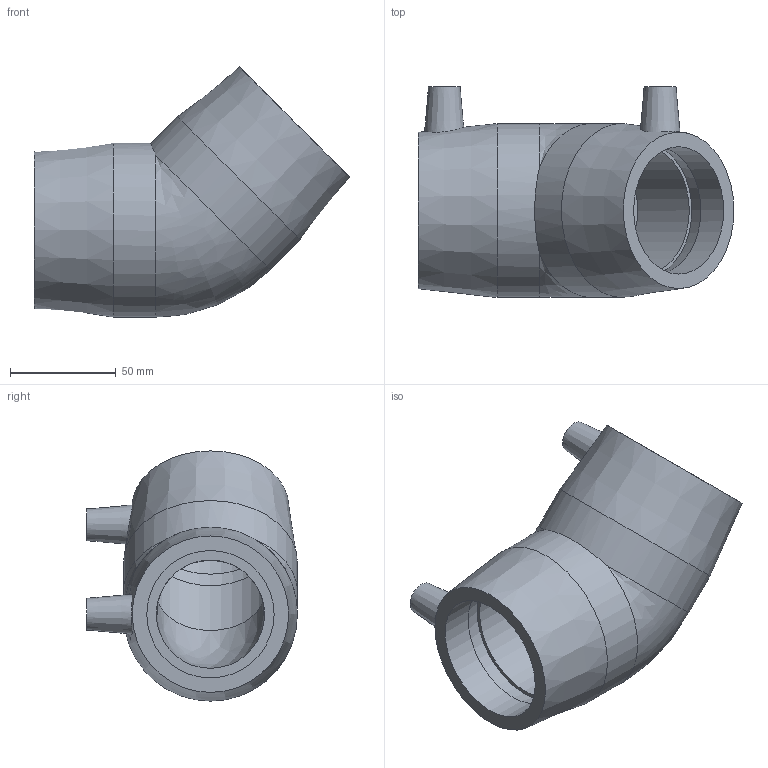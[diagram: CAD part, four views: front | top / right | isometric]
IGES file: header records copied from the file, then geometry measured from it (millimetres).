
Global section: file name: 5906B003020.ipt; native system: Autodesk Inventor 2019; preprocessor: unknown; author: KIM; date: 20210830.101008; units: inch
Bounding box: 149.1 x 99.44 x 118.07 mm (x, y, z)
Volume: 338922.1 mm3; surface area: 70430.3 mm2
Topology: 1 solids, 1 shells, 30 faces, 68 edges, 46 vertices
Faces by surface type: plane 12, revolution 9, cylinder 4, cone 4, bspline 1
Full cylindrical faces by diameter (mm): 4 x2, 82.042 x2
